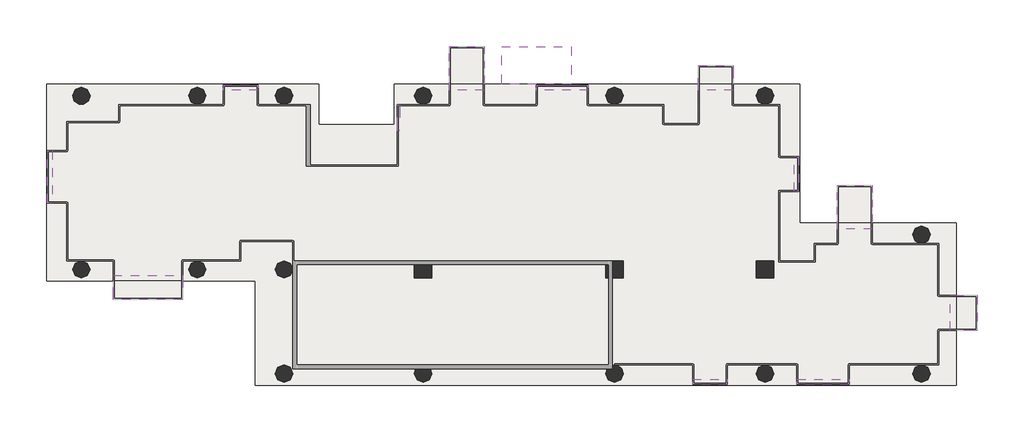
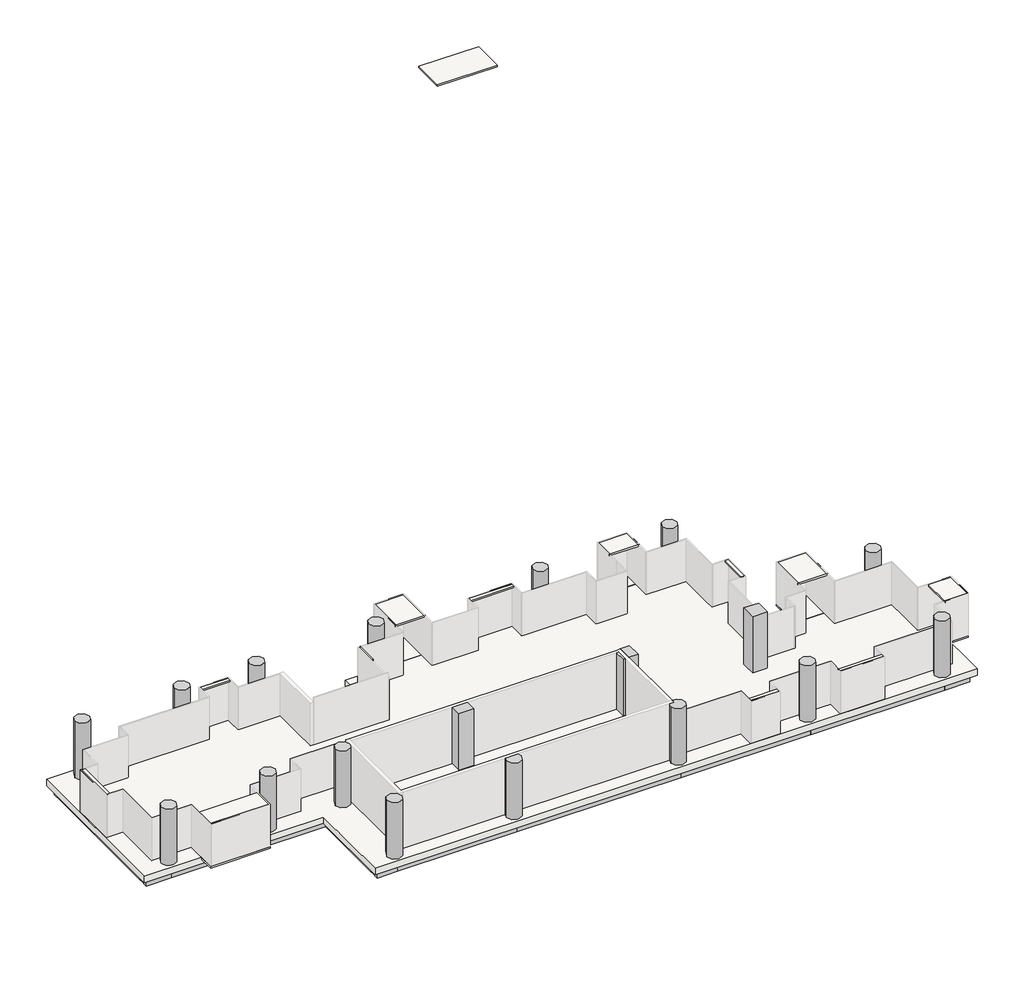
# One storey, part 2 of 2: 40 slabs, 25 beams, 18 columns.
"""IFC4 building model written with IfcOpenShell, lengths in millimetres."""

from ifc_helpers import new_model, si_unit, point, frame, frame_2d, origin, place, context, project, spatial, polyline, circle_curve, trimmed, segment, composite_curve, outline, extrude, transform, mapped, element, save
from ifc_brep_helpers import plane_surface, cylinder_surface, advanced_brep
from components import ajn_arc_ossature_rec_ba_700x600_5242ffbb, ajn_arc_ossature_rec_ba_700x600_213c05e2, ajn_arc_ossature_rec_ba_700x600_4d623bda, ajn_arc_ossature_rec_ba_700x600_c2a8f1af, ajn_arc_ossature_rec_ba_700x600_b2f97811, ajn_arc_ossature_rec_ba_700x600_e688680c, ajn_arc_ossature_rec_ba_700x600_8adee879, ajn_arc_ossature_rec_ba_700x600_6677e51c, ajn_arc_ossature_rec_ba_700x600_60e35d56, ajn_arc_ossature_rec_ba_700x600_9ae0f913, ajn_arc_ossature_rec_ba_700x600_5c14351b, ajn_arc_ossature_rec_ba_700x600_e883967f, ajn_arc_ossature_rec_ba_700x600_0984b03c, ajn_arc_ossature_rec_ba_700x600_78f846f2, ajn_arc_ossature_rec_ba_700x600_e869caa8, ajn_arc_ossature_rec_ba_700x600_0388eb48, ajn_arc_ossature_rec_ba_700x600_e143517c, ajn_arc_ossature_rec_ba_700x600_758f1bfa, ajn_arc_ossature_rec_ba_700x600_64ba80e1, ajn_arc_poteau_circulaire_371a530a

model = new_model("IFC4")

# Units and contexts
model_context = context("Model", 3, world=origin())
ifc_project = project(units=[si_unit("LENGTHUNIT", "METRE", prefix="MILLI")], contexts=[model_context])

# Site, building, storey
site = spatial("IfcSite", under=ifc_project)
building = spatial("IfcBuilding", under=site)
storey = spatial("IfcBuildingStorey", under=building, Name="TW-L 08", Elevation=27999.9999686)

# Beams
placement = place(None, origin())
ajn_arc_ossature_rec_ba_700x600_shape = ajn_arc_ossature_rec_ba_700x600_5242ffbb(model_context)
element("IfcBeam", 1, ObjectType="AJN-ARC-OSSATURE REC-BA : 700x600", at=placement, inside=storey, context=model_context, shape_type="MappedRepresentation", body=[
    mapped(ajn_arc_ossature_rec_ba_700x600_shape, transform((119350.0, 39300.0, 27449.9999686), x_axis=(-1.0, 0.0, 0.0), y_axis=(0.0, -1.0, 0.0), z_axis=(0.0, 0.0, 1.0))),
])
ajn_arc_ossature_rec_ba_700x600_2_shape = ajn_arc_ossature_rec_ba_700x600_213c05e2(model_context)
element("IfcBeam", 2, ObjectType="AJN-ARC-OSSATURE REC-BA : 700x600", at=placement, inside=storey, context=model_context, shape_type="MappedRepresentation", body=[
    mapped(ajn_arc_ossature_rec_ba_700x600_2_shape, transform((100900.0, 34800.0, 27449.9999686), x_axis=(0.0, -1.0, 0.0), y_axis=(1.0, 0.0, 0.0), z_axis=(0.0, 0.0, 1.0))),
])
ajn_arc_ossature_rec_ba_700x600_3_shape = ajn_arc_ossature_rec_ba_700x600_4d623bda(model_context)
element("IfcBeam", 3, ObjectType="AJN-ARC-OSSATURE REC-BA : 700x600", at=placement, inside=storey, context=model_context, shape_type="MappedRepresentation", body=[
    mapped(ajn_arc_ossature_rec_ba_700x600_3_shape, transform((112150.0, 24900.0, 27449.9999686), x_axis=(1.0, 0.0, 0.0), y_axis=(0.0, 1.0, 0.0), z_axis=(0.0, 0.0, 1.0))),
])
ajn_arc_ossature_rec_ba_700x600_4_shape = ajn_arc_ossature_rec_ba_700x600_c2a8f1af(model_context)
element("IfcBeam", 4, ObjectType="AJN-ARC-OSSATURE REC-BA : 700x600", at=placement, inside=storey, context=model_context, shape_type="MappedRepresentation", body=[
    mapped(ajn_arc_ossature_rec_ba_700x600_4_shape, transform((116200.0, 24900.0, 27449.9999686), x_axis=(1.0, 0.0, 0.0), y_axis=(0.0, 1.0, 0.0), z_axis=(0.0, 0.0, 1.0))),
])
ajn_arc_ossature_rec_ba_700x600_5_shape = ajn_arc_ossature_rec_ba_700x600_b2f97811(model_context)
element("IfcBeam", 5, ObjectType="AJN-ARC-OSSATURE REC-BA : 700x600", at=placement, inside=storey, context=model_context, shape_type="MappedRepresentation", body=[
    mapped(ajn_arc_ossature_rec_ba_700x600_5_shape, transform((106900.0, 30300.0, 27449.9999686), x_axis=(1.0, 0.0, 0.0), y_axis=(0.0, 1.0, 0.0), z_axis=(0.0, 0.0, 1.0))),
])
ajn_arc_ossature_rec_ba_700x600_6_shape = ajn_arc_ossature_rec_ba_700x600_e688680c(model_context)
element("IfcBeam", 6, ObjectType="AJN-ARC-OSSATURE REC-BA : 700x600", at=placement, inside=storey, context=model_context, shape_type="MappedRepresentation", body=[
    mapped(ajn_arc_ossature_rec_ba_700x600_6_shape, transform((111700.0, 27600.0, 27449.9999686), x_axis=(0.0, -1.0, 0.0), y_axis=(1.0, 0.0, 0.0), z_axis=(0.0, 0.0, 1.0))),
])
ajn_arc_ossature_rec_ba_700x600_7_shape = ajn_arc_ossature_rec_ba_700x600_8adee879(model_context)
element("IfcBeam", 7, ObjectType="AJN-ARC-OSSATURE REC-BA : 700x600", at=placement, inside=storey, context=model_context, shape_type="MappedRepresentation", body=[
    mapped(ajn_arc_ossature_rec_ba_700x600_7_shape, transform((124750.0, 24900.0, 27449.9999686), x_axis=(1.0, 0.0, 0.0), y_axis=(0.0, 1.0, 0.0), z_axis=(0.0, 0.0, 1.0))),
])
element("IfcBeam", 8, ObjectType="AJN-ARC-OSSATURE REC-BA : 700x600", at=placement, inside=storey, context=model_context, shape_type="MappedRepresentation", body=[
    mapped(ajn_arc_ossature_rec_ba_700x600_7_shape, transform((124750.0, 39300.0, 27449.9999686), x_axis=(-1.0, 0.0, 0.0), y_axis=(0.0, -1.0, 0.0), z_axis=(0.0, 0.0, 1.0))),
])
ajn_arc_ossature_rec_ba_700x600_8_shape = ajn_arc_ossature_rec_ba_700x600_6677e51c(model_context)
element("IfcBeam", 9, ObjectType="AJN-ARC-OSSATURE REC-BA : 700x600", at=placement, inside=storey, context=model_context, shape_type="MappedRepresentation", body=[
    mapped(ajn_arc_ossature_rec_ba_700x600_8_shape, transform((133600.0, 24900.0, 27449.9999686), x_axis=(1.0, 0.0, 0.0), y_axis=(0.0, 1.0, 0.0), z_axis=(0.0, 0.0, 1.0))),
])
ajn_arc_ossature_rec_ba_700x600_9_shape = ajn_arc_ossature_rec_ba_700x600_60e35d56(model_context)
element("IfcBeam", 10, ObjectType="AJN-ARC-OSSATURE REC-BA : 700x600", at=placement, inside=storey, context=model_context, shape_type="MappedRepresentation", body=[
    mapped(ajn_arc_ossature_rec_ba_700x600_9_shape, transform((141550.0, 24900.0, 27449.9999686), x_axis=(1.0, 0.0, 0.0), y_axis=(0.0, 1.0, 0.0), z_axis=(0.0, 0.0, 1.0))),
])
ajn_arc_ossature_rec_ba_700x600_10_shape = ajn_arc_ossature_rec_ba_700x600_9ae0f913(model_context)
element("IfcBeam", 11, ObjectType="AJN-ARC-OSSATURE REC-BA : 700x600", at=placement, inside=storey, context=model_context, shape_type="MappedRepresentation", body=[
    mapped(ajn_arc_ossature_rec_ba_700x600_10_shape, transform((146200.0, 24900.0, 27449.9999686), x_axis=(1.0, 0.0, 0.0), y_axis=(0.0, 1.0, 0.0), z_axis=(0.0, 0.0, 1.0))),
])
element("IfcBeam", 12, ObjectType="AJN-ARC-OSSATURE REC-BA : 700x600", at=placement, inside=storey, context=model_context, shape_type="MappedRepresentation", body=[
    mapped(ajn_arc_ossature_rec_ba_700x600_10_shape, transform((101500.0, 39300.0, 27449.9999686), x_axis=(-1.0, 0.0, 0.0), y_axis=(0.0, -1.0, 0.0), z_axis=(0.0, 0.0, 1.0))),
])
ajn_arc_ossature_rec_ba_700x600_11_shape = ajn_arc_ossature_rec_ba_700x600_5c14351b(model_context)
element("IfcBeam", 13, ObjectType="AJN-ARC-OSSATURE REC-BA : 700x600", at=placement, inside=storey, context=model_context, shape_type="MappedRepresentation", body=[
    mapped(ajn_arc_ossature_rec_ba_700x600_11_shape, transform((146800.0, 28500.0, 27449.9999686), x_axis=(0.0, 1.0, 0.0), y_axis=(-1.0, 0.0, 0.0), z_axis=(0.0, 0.0, 1.0))),
])
element("IfcBeam", 14, ObjectType="AJN-ARC-OSSATURE REC-BA : 700x600", at=placement, inside=storey, context=model_context, shape_type="MappedRepresentation", body=[
    mapped(ajn_arc_ossature_rec_ba_700x600_11_shape, transform((138700.0, 35700.0, 27449.9999686), x_axis=(0.0, 1.0, 0.0), y_axis=(-1.0, 0.0, 0.0), z_axis=(0.0, 0.0, 1.0))),
])
ajn_arc_ossature_rec_ba_700x600_12_shape = ajn_arc_ossature_rec_ba_700x600_e883967f(model_context)
element("IfcBeam", 15, ObjectType="AJN-ARC-OSSATURE REC-BA : 700x600", at=placement, inside=storey, context=model_context, shape_type="MappedRepresentation", body=[
    mapped(ajn_arc_ossature_rec_ba_700x600_12_shape, transform((146200.0, 32100.0, 27449.9999686), x_axis=(-1.0, 0.0, 0.0), y_axis=(0.0, -1.0, 0.0), z_axis=(0.0, 0.0, 1.0))),
])
element("IfcBeam", 16, ObjectType="AJN-ARC-OSSATURE REC-BA : 700x600", at=placement, inside=storey, context=model_context, shape_type="MappedRepresentation", body=[
    mapped(ajn_arc_ossature_rec_ba_700x600_12_shape, transform((138100.0, 39300.0, 27449.9999686), x_axis=(-1.0, 0.0, 0.0), y_axis=(0.0, -1.0, 0.0), z_axis=(0.0, 0.0, 1.0))),
])
element("IfcBeam", 17, ObjectType="AJN-ARC-OSSATURE REC-BA : 700x600", at=placement, inside=storey, context=model_context, shape_type="MappedRepresentation", body=[
    mapped(ajn_arc_ossature_rec_ba_700x600_12_shape, transform((113200.0, 39300.0, 27449.9999686), x_axis=(-1.0, 0.0, 0.0), y_axis=(0.0, -1.0, 0.0), z_axis=(0.0, 0.0, 1.0))),
])
element("IfcBeam", 18, ObjectType="AJN-ARC-OSSATURE REC-BA : 700x600", at=placement, inside=storey, context=model_context, shape_type="MappedRepresentation", body=[
    mapped(ajn_arc_ossature_rec_ba_700x600_12_shape, transform((101500.0, 30300.0, 27449.9999686), x_axis=(1.0, 0.0, 0.0), y_axis=(0.0, 1.0, 0.0), z_axis=(0.0, 0.0, 1.0))),
])
ajn_arc_ossature_rec_ba_700x600_13_shape = ajn_arc_ossature_rec_ba_700x600_0984b03c(model_context)
element("IfcBeam", 19, ObjectType="AJN-ARC-OSSATURE REC-BA : 700x600", at=placement, inside=storey, context=model_context, shape_type="MappedRepresentation", body=[
    mapped(ajn_arc_ossature_rec_ba_700x600_13_shape, transform((142150.0, 32100.0, 27449.9999686), x_axis=(-1.0, 0.0, 0.0), y_axis=(0.0, -1.0, 0.0), z_axis=(0.0, 0.0, 1.0))),
])
ajn_arc_ossature_rec_ba_700x600_14_shape = ajn_arc_ossature_rec_ba_700x600_78f846f2(model_context)
element("IfcBeam", 20, ObjectType="AJN-ARC-OSSATURE REC-BA : 700x600", at=placement, inside=storey, context=model_context, shape_type="MappedRepresentation", body=[
    mapped(ajn_arc_ossature_rec_ba_700x600_14_shape, transform((133600.0, 39300.0, 27449.9999686), x_axis=(-1.0, 0.0, 0.0), y_axis=(0.0, -1.0, 0.0), z_axis=(0.0, 0.0, 1.0))),
])
ajn_arc_ossature_rec_ba_700x600_15_shape = ajn_arc_ossature_rec_ba_700x600_e869caa8(model_context)
element("IfcBeam", 21, ObjectType="AJN-ARC-OSSATURE REC-BA : 700x600", at=placement, inside=storey, context=model_context, shape_type="MappedRepresentation", body=[
    mapped(ajn_arc_ossature_rec_ba_700x600_15_shape, transform((118900.0, 38250.0, 27449.9999686), x_axis=(0.0, -1.0, 0.0), y_axis=(1.0, 0.0, 0.0), z_axis=(0.0, 0.0, 1.0))),
])
ajn_arc_ossature_rec_ba_700x600_16_shape = ajn_arc_ossature_rec_ba_700x600_0388eb48(model_context)
element("IfcBeam", 22, ObjectType="AJN-ARC-OSSATURE REC-BA : 700x600", at=placement, inside=storey, context=model_context, shape_type="MappedRepresentation", body=[
    mapped(ajn_arc_ossature_rec_ba_700x600_16_shape, transform((110350.0, 39300.0, 27449.9999686), x_axis=(-1.0, 0.0, 0.0), y_axis=(0.0, -1.0, 0.0), z_axis=(0.0, 0.0, 1.0))),
])
ajn_arc_ossature_rec_ba_700x600_17_shape = ajn_arc_ossature_rec_ba_700x600_e143517c(model_context)
element("IfcBeam", 23, ObjectType="AJN-ARC-OSSATURE REC-BA : 700x600", at=placement, inside=storey, context=model_context, shape_type="MappedRepresentation", body=[
    mapped(ajn_arc_ossature_rec_ba_700x600_17_shape, transform((105100.0, 39300.0, 27449.9999686), x_axis=(-1.0, 0.0, 0.0), y_axis=(0.0, -1.0, 0.0), z_axis=(0.0, 0.0, 1.0))),
])
ajn_arc_ossature_rec_ba_700x600_18_shape = ajn_arc_ossature_rec_ba_700x600_758f1bfa(model_context)
element("IfcBeam", 24, ObjectType="AJN-ARC-OSSATURE REC-BA : 700x600", at=placement, inside=storey, context=model_context, shape_type="MappedRepresentation", body=[
    mapped(ajn_arc_ossature_rec_ba_700x600_18_shape, transform((116350.0, 37200.0, 27449.9999686), x_axis=(-1.0, 0.0, 0.0), y_axis=(0.0, -1.0, 0.0), z_axis=(0.0, 0.0, 1.0))),
])
ajn_arc_ossature_rec_ba_700x600_19_shape = ajn_arc_ossature_rec_ba_700x600_64ba80e1(model_context)
element("IfcBeam", 25, ObjectType="AJN-ARC-OSSATURE REC-BA : 700x600", at=placement, inside=storey, context=model_context, shape_type="MappedRepresentation", body=[
    mapped(ajn_arc_ossature_rec_ba_700x600_19_shape, transform((113800.0, 38250.0, 27449.9999686), x_axis=(0.0, 1.0, 0.0), y_axis=(-1.0, 0.0, 0.0), z_axis=(0.0, 0.0, 1.0))),
])

# Columns
element("IfcColumn", 26, ObjectType="AJN-ARC-POTEAU CIRCULAIRE : ø90", at=placement, inside=storey, context=model_context, shape_type="SweptSolid", body=[
    extrude(outline(composite_curve([segment(trimmed(circle_curve(frame_2d((102100.0, 30300.0)), 450.0), [point((101650.0, 30300.0))], [point((102550.0, 30300.0))], False, "CARTESIAN"), True, "CONTINUOUS"), segment(trimmed(circle_curve(frame_2d((102100.0, 30300.0)), 450.0), [point((102550.0, 30300.0))], [point((101650.0, 30300.0))], False, "CARTESIAN"), True, "CONTINUOUS")], self_intersect=False)), frame((0.0, 0.0, 27999.9999686), z_axis=(0.0, 0.0, 1.0), x_axis=(1.0, 0.0, 0.0)), (0.0, 0.0, 1.0), 3600.0),
])
element("IfcColumn", 27, ObjectType="AJN-ARC-POTEAU CIRCULAIRE : ø90", at=placement, inside=storey, context=model_context, shape_type="SweptSolid", body=[
    extrude(outline(composite_curve([segment(trimmed(circle_curve(frame_2d((108100.0, 30300.0)), 450.0), [point((107650.0, 30300.0))], [point((108550.0, 30300.0))], False, "CARTESIAN"), True, "CONTINUOUS"), segment(trimmed(circle_curve(frame_2d((108100.0, 30300.0)), 450.0), [point((108550.0, 30300.0))], [point((107650.0, 30300.0))], False, "CARTESIAN"), True, "CONTINUOUS")], self_intersect=False)), frame((0.0, 0.0, 27999.9999686), z_axis=(0.0, 0.0, 1.0), x_axis=(1.0, 0.0, 0.0)), (0.0, 0.0, 1.0), 3600.0),
])
element("IfcColumn", 28, ObjectType="AJN-ARC-POTEAU CIRCULAIRE : ø90", at=placement, inside=storey, context=model_context, shape_type="SweptSolid", body=[
    extrude(outline(composite_curve([segment(trimmed(circle_curve(frame_2d((108100.0, 39300.0)), 450.0), [point((107650.0, 39300.0))], [point((108550.0, 39300.0))], False, "CARTESIAN"), True, "CONTINUOUS"), segment(trimmed(circle_curve(frame_2d((108100.0, 39300.0)), 450.0), [point((108550.0, 39300.0))], [point((107650.0, 39300.0))], False, "CARTESIAN"), True, "CONTINUOUS")], self_intersect=False)), frame((0.0, 0.0, 27999.9999686), z_axis=(0.0, 0.0, 1.0), x_axis=(1.0, 0.0, 0.0)), (0.0, 0.0, 1.0), 3600.0),
])
element("IfcColumn", 29, ObjectType="AJN-ARC-POTEAU CIRCULAIRE : ø90", at=placement, inside=storey, context=model_context, shape_type="SweptSolid", body=[
    extrude(outline(composite_curve([segment(trimmed(circle_curve(frame_2d((112600.0, 39300.0)), 450.0), [point((112150.0, 39300.0))], [point((113050.0, 39300.0))], False, "CARTESIAN"), True, "CONTINUOUS"), segment(trimmed(circle_curve(frame_2d((112600.0, 39300.0)), 450.0), [point((113050.0, 39300.0))], [point((112150.0, 39300.0))], False, "CARTESIAN"), True, "CONTINUOUS")], self_intersect=False)), frame((0.0, 0.0, 27999.9999686), z_axis=(0.0, 0.0, 1.0), x_axis=(1.0, 0.0, 0.0)), (0.0, 0.0, 1.0), 3600.0),
])
element("IfcColumn", 30, ObjectType="AJN-ARC-POTEAU CIRCULAIRE : ø90", at=placement, inside=storey, context=model_context, shape_type="SweptSolid", body=[
    extrude(outline(composite_curve([segment(trimmed(circle_curve(frame_2d((112600.0, 30300.0)), 450.0), [point((112150.0, 30300.0))], [point((113050.0, 30300.0))], False, "CARTESIAN"), True, "CONTINUOUS"), segment(trimmed(circle_curve(frame_2d((112600.0, 30300.0)), 450.0), [point((113050.0, 30300.0))], [point((112150.0, 30300.0))], False, "CARTESIAN"), True, "CONTINUOUS")], self_intersect=False)), frame((0.0, 0.0, 27999.9999686), z_axis=(0.0, 0.0, 1.0), x_axis=(1.0, 0.0, 0.0)), (0.0, 0.0, 1.0), 3600.0),
])
element("IfcColumn", 31, ObjectType="AJN-ARC-POTEAU CIRCULAIRE : ø90", at=placement, inside=storey, context=model_context, shape_type="SweptSolid", body=[
    extrude(outline(composite_curve([segment(trimmed(circle_curve(frame_2d((112600.0, 24900.0)), 450.0), [point((112150.0, 24900.0))], [point((113050.0, 24900.0))], False, "CARTESIAN"), True, "CONTINUOUS"), segment(trimmed(circle_curve(frame_2d((112600.0, 24900.0)), 450.0), [point((113050.0, 24900.0))], [point((112150.0, 24900.0))], False, "CARTESIAN"), True, "CONTINUOUS")], self_intersect=False)), frame((0.0, 0.0, 27999.9999686), z_axis=(0.0, 0.0, 1.0), x_axis=(1.0, 0.0, 0.0)), (0.0, 0.0, 1.0), 3600.0),
])
element("IfcColumn", 32, ObjectType="AJN-ARC-POTEAU CIRCULAIRE : ø90", at=placement, inside=storey, context=model_context, shape_type="SweptSolid", body=[
    extrude(outline(composite_curve([segment(trimmed(circle_curve(frame_2d((119800.0, 24900.0)), 450.0), [point((120250.0, 24900.0))], [point((119350.0, 24900.0))], False, "CARTESIAN"), True, "CONTINUOUS"), segment(trimmed(circle_curve(frame_2d((119800.0, 24900.0)), 450.0), [point((119350.0, 24900.0))], [point((119425.8342613, 25150.0))], False, "CARTESIAN"), True, "CONTINUOUS"), segment(polyline([(119425.8342613, 25150.0), (120174.1657387, 25150.0)]), True, "CONTINUOUS"), segment(trimmed(circle_curve(frame_2d((119800.0, 24900.0)), 450.0), [point((120174.1657387, 25150.0))], [point((120250.0, 24900.0))], False, "CARTESIAN"), True, "CONTINUOUS")], self_intersect=False)), frame((0.0, 0.0, 27999.9999686), z_axis=(0.0, 0.0, 1.0), x_axis=(1.0, 0.0, 0.0)), (0.0, 0.0, 1.0), 3600.0),
])
element("IfcColumn", 33, ObjectType="AJN-ARC-POTEAU CIRCULAIRE : ø90", at=placement, inside=storey, context=model_context, shape_type="SweptSolid", body=[
    extrude(outline(composite_curve([segment(trimmed(circle_curve(frame_2d((119800.0, 39300.0)), 450.0), [point((119350.0, 39300.0))], [point((120250.0, 39300.0))], False, "CARTESIAN"), True, "CONTINUOUS"), segment(trimmed(circle_curve(frame_2d((119800.0, 39300.0)), 450.0), [point((120250.0, 39300.0))], [point((119350.0, 39300.0))], False, "CARTESIAN"), True, "CONTINUOUS")], self_intersect=False)), frame((0.0, 0.0, 27999.9999686), z_axis=(0.0, 0.0, 1.0), x_axis=(1.0, 0.0, 0.0)), (0.0, 0.0, 1.0), 3600.0),
])
element("IfcColumn", 34, ObjectType="AJN-ARC-POTEAU CIRCULAIRE : ø90", at=placement, inside=storey, context=model_context, shape_type="SweptSolid", body=[
    extrude(outline(composite_curve([segment(trimmed(circle_curve(frame_2d((129700.0, 39300.0)), 450.0), [point((129250.0, 39300.0))], [point((130150.0, 39300.0))], False, "CARTESIAN"), True, "CONTINUOUS"), segment(trimmed(circle_curve(frame_2d((129700.0, 39300.0)), 450.0), [point((130150.0, 39300.0))], [point((129250.0, 39300.0))], False, "CARTESIAN"), True, "CONTINUOUS")], self_intersect=False)), frame((0.0, 0.0, 27999.9999686), z_axis=(0.0, 0.0, 1.0), x_axis=(1.0, 0.0, 0.0)), (0.0, 0.0, 1.0), 3600.0),
])
element("IfcColumn", 35, ObjectType="AJN-ARC-POTEAU CIRCULAIRE : ø90", at=placement, inside=storey, context=model_context, shape_type="SweptSolid", body=[
    extrude(outline(composite_curve([segment(trimmed(circle_curve(frame_2d((129700.0, 24900.0)), 450.0), [point((130150.0, 24900.0))], [point((129250.0, 24900.0))], False, "CARTESIAN"), True, "CONTINUOUS"), segment(trimmed(circle_curve(frame_2d((129700.0, 24900.0)), 450.0), [point((129250.0, 24900.0))], [point((129325.8342613, 25150.0))], False, "CARTESIAN"), True, "CONTINUOUS"), segment(polyline([(129325.8342613, 25150.0), (129600.0, 25150.0), (129600.0, 25338.7482194)]), True, "CONTINUOUS"), segment(trimmed(circle_curve(frame_2d((129700.0, 24900.0)), 450.0), [point((129600.0, 25338.7482194))], [point((130150.0, 24900.0))], False, "CARTESIAN"), True, "CONTINUOUS")], self_intersect=False)), frame((0.0, 0.0, 27999.9999686), z_axis=(0.0, 0.0, 1.0), x_axis=(1.0, 0.0, 0.0)), (0.0, 0.0, 1.0), 3600.0),
])
element("IfcColumn", 36, ObjectType="AJN-ARC-POTEAU CIRCULAIRE : ø90", at=placement, inside=storey, context=model_context, shape_type="SweptSolid", body=[
    extrude(outline(composite_curve([segment(trimmed(circle_curve(frame_2d((137500.0, 39300.0)), 450.0), [point((137050.0, 39300.0))], [point((137950.0, 39300.0))], False, "CARTESIAN"), True, "CONTINUOUS"), segment(trimmed(circle_curve(frame_2d((137500.0, 39300.0)), 450.0), [point((137950.0, 39300.0))], [point((137050.0, 39300.0))], False, "CARTESIAN"), True, "CONTINUOUS")], self_intersect=False)), frame((0.0, 0.0, 27999.9999686), z_axis=(0.0, 0.0, 1.0), x_axis=(1.0, 0.0, 0.0)), (0.0, 0.0, 1.0), 3600.0),
])
element("IfcColumn", 37, ObjectType="AJN-ARC-POTEAU CIRCULAIRE : ø90", at=placement, inside=storey, context=model_context, shape_type="SweptSolid", body=[
    extrude(outline(composite_curve([segment(trimmed(circle_curve(frame_2d((137500.0, 24900.0)), 450.0), [point((137050.0, 24900.0))], [point((137950.0, 24900.0))], False, "CARTESIAN"), True, "CONTINUOUS"), segment(trimmed(circle_curve(frame_2d((137500.0, 24900.0)), 450.0), [point((137950.0, 24900.0))], [point((137050.0, 24900.0))], False, "CARTESIAN"), True, "CONTINUOUS")], self_intersect=False)), frame((0.0, 0.0, 27999.9999686), z_axis=(0.0, 0.0, 1.0), x_axis=(1.0, 0.0, 0.0)), (0.0, 0.0, 1.0), 3600.0),
])
element("IfcColumn", 38, ObjectType="AJN-ARC-POTEAU CIRCULAIRE : ø90", at=placement, inside=storey, context=model_context, shape_type="SweptSolid", body=[
    extrude(outline(composite_curve([segment(trimmed(circle_curve(frame_2d((145600.0, 24900.0)), 450.0), [point((145150.0, 24900.0))], [point((146050.0, 24900.0))], False, "CARTESIAN"), True, "CONTINUOUS"), segment(trimmed(circle_curve(frame_2d((145600.0, 24900.0)), 450.0), [point((146050.0, 24900.0))], [point((145150.0, 24900.0))], False, "CARTESIAN"), True, "CONTINUOUS")], self_intersect=False)), frame((0.0, 0.0, 27999.9999686), z_axis=(0.0, 0.0, 1.0), x_axis=(1.0, 0.0, 0.0)), (0.0, 0.0, 1.0), 3600.0),
])
element("IfcColumn", 39, ObjectType="AJN-ARC-POTEAU CIRCULAIRE : ø90", at=placement, inside=storey, context=model_context, shape_type="AdvancedBrep", body=[
    advanced_brep(
    [(145150.0, 32100.0, 27999.9999686), (146050.0, 32100.0, 27999.9999686), (145638.6089983, 31651.6593424, 27999.9999686), (145561.3910017, 31651.6593424, 27999.9999686), (145150.0, 32100.0, 31599.9999686), (146050.0, 32100.0, 31599.9999686), (145561.3910017, 31651.6593424, 30699.9999686), (145638.6089983, 31651.6593424, 30699.9999686)],
    [
        (0, 1, circle_curve(frame((145600.0, 32100.0, 27999.9999686), z_axis=(0.0, 0.0, -1.0), x_axis=(1.0, 0.0, 0.0)), 450.0)),
        (1, 2, circle_curve(frame((145600.0, 32100.0, 27999.9999686), z_axis=(0.0, 0.0, -1.0), x_axis=(1.0, 0.0, 0.0)), 450.0)),
        (2, 3),
        (3, 0, circle_curve(frame((145600.0, 32100.0, 27999.9999686), z_axis=(0.0, 0.0, -1.0), x_axis=(1.0, 0.0, 0.0)), 450.0)),
        (0, 4),
        (4, 5, circle_curve(frame((145600.0, 32100.0, 31599.9999686), z_axis=(0.0, 0.0, -1.0), x_axis=(1.0, 0.0, 0.0)), 450.0)),
        (5, 1),
        (5, 4, circle_curve(frame((145600.0, 32100.0, 31599.9999686), z_axis=(0.0, 0.0, -1.0), x_axis=(1.0, 0.0, 0.0)), 450.0)),
        (3, 6),
        (6, 7, circle_curve(frame((145600.0, 32100.0, 30699.9999686), z_axis=(0.0, 0.0, 1.0), x_axis=(1.0, 0.0, 0.0)), 450.0)),
        (7, 2),
        (7, 6),
    ],
    [
        plane_surface(frame((146050.0, 32100.0, 27999.9999686), z_axis=(0.0, 0.0, -1.0), x_axis=(0.0, -1.0, 0.0))),
        cylinder_surface(frame((145600.0, 32100.0, 27999.9999686), z_axis=(0.0, 0.0, 1.0), x_axis=(1.0, 0.0, 0.0)), 450.0),
        plane_surface(frame((146050.0, 32100.0, 31599.9999686), z_axis=(0.0, 0.0, 1.0), x_axis=(0.0, 1.0, 0.0))),
        plane_surface(frame((146472.681474, 31651.6593424, 27999.9999686), z_axis=(0.0, -1.0, 0.0), x_axis=(-1.0, 0.0, 0.0))),
        plane_surface(frame((143050.0855834, 31651.6593424, 30699.9999686), z_axis=(0.0, 0.0, -1.0), x_axis=(0.0, -1.0, 0.0))),
    ],
    [
        (0, [[1, 2, 3, 4]]),
        (1, [[-1, 5, 6, 7]]),
        (1, [[-7, 8, -5, -4, 9, 10, 11, -2]]),
        (2, [[-6, -8]]),
        (3, [[12, -9, -3, -11]]),
        (4, [[-12, -10]]),
    ],
),
])
ajn_arc_poteau_circulaire_shape = ajn_arc_poteau_circulaire_371a530a(model_context)
element("IfcColumn", 40, ObjectType="AJN-ARC-POTEAU CIRCULAIRE : ø90", at=placement, inside=storey, context=model_context, shape_type="MappedRepresentation", body=[
    mapped(ajn_arc_poteau_circulaire_shape, transform((102100.0, 39300.0, 0.0), x_axis=(1.0, 0.0, 0.0), y_axis=(0.0, 1.0, 0.0), z_axis=(0.0, 0.0, 1.0))),
])
element("IfcColumn", 41, ObjectType="AJN-ARC-POTEAU RECTANGULAIRE : 900 mm x 900 mm", at=placement, inside=storey, context=model_context, shape_type="SweptSolid", body=[
    extrude(outline(polyline([(137950.0, 30750.0), (137950.0, 29850.0), (137050.0, 29850.0), (137050.0, 30750.0), (137950.0, 30750.0)])), frame((0.0, 0.0, 27999.9999686), z_axis=(0.0, 0.0, 1.0), x_axis=(1.0, 0.0, 0.0)), (0.0, 0.0, 1.0), 3600.0),
])
element("IfcColumn", 42, ObjectType="AJN-ARC-POTEAU RECTANGULAIRE : 900 mm x 900 mm", at=placement, inside=storey, context=model_context, shape_type="SweptSolid", body=[
    extrude(outline(polyline([(129400.0, 29850.0), (129250.0, 29850.0), (129250.0, 30550.0), (129400.0, 30550.0), (129400.0, 29850.0)])), frame((0.0, 0.0, 27999.9999686), z_axis=(0.0, 0.0, 1.0), x_axis=(1.0, 0.0, 0.0)), (0.0, 0.0, 1.0), 3600.0),
    extrude(outline(polyline([(130150.0, 30750.0), (130150.0, 29850.0), (129600.0, 29850.0), (129600.0, 30750.0), (130150.0, 30750.0)])), frame((0.0, 0.0, 27999.9999686), z_axis=(0.0, 0.0, 1.0), x_axis=(1.0, 0.0, 0.0)), (0.0, 0.0, 1.0), 3600.0),
])
element("IfcColumn", 43, ObjectType="AJN-ARC-POTEAU RECTANGULAIRE : 900 mm x 900 mm", at=placement, inside=storey, context=model_context, shape_type="SweptSolid", body=[
    extrude(outline(polyline([(120250.0, 29850.0), (119350.0, 29850.0), (119350.0, 30550.0), (120250.0, 30550.0), (120250.0, 29850.0)])), frame((0.0, 0.0, 27999.9999686), z_axis=(0.0, 0.0, 1.0), x_axis=(1.0, 0.0, 0.0)), (0.0, 0.0, 1.0), 3600.0),
])

# Slabs
element("IfcSlab", 44, ObjectType="AJN-ARC-SLAB-10cm", at=placement, inside=storey, context=model_context, shape_type="SweptSolid", body=[
    extrude(outline(polyline([(148497.681474, 27148.986399), (147400.0, 27148.986399), (147400.0, 28948.986399), (148497.681474, 28948.986399), (148497.681474, 27148.986399)])), frame((0.0, 0.0, 27899.9999686), z_axis=(0.0, 0.0, 1.0), x_axis=(1.0, 0.0, 0.0)), (0.0, 0.0, 1.0), 100.0),
])
element("IfcSlab", 45, ObjectType="AJN-ARC-SLAB-10cm", at=placement, inside=storey, context=model_context, shape_type="SweptSolid", body=[
    extrude(outline(polyline([(143050.0855834, 32700.0), (141250.0855834, 32700.0), (141250.0855834, 34651.6593424), (143050.0855834, 34651.6593424), (143050.0855834, 32700.0)])), frame((0.0, 0.0, 27899.9999686), z_axis=(0.0, 0.0, 1.0), x_axis=(1.0, 0.0, 0.0)), (0.0, 0.0, 1.0), 100.0),
])
element("IfcSlab", 46, ObjectType="AJN-ARC-SLAB-10cm", at=placement, inside=storey, context=model_context, shape_type="SweptSolid", body=[
    extrude(outline(polyline([(122950.0, 39900.0), (121150.0, 39900.0), (121150.0, 41850.0), (122950.0, 41850.0), (122950.0, 39900.0)])), frame((0.0, 0.0, 27899.9999686), z_axis=(0.0, 0.0, 1.0), x_axis=(1.0, 0.0, 0.0)), (0.0, 0.0, 1.0), 100.0),
])
element("IfcSlab", 47, ObjectType="AJN-ARC-SLAB-10cm", at=placement, inside=storey, context=model_context, shape_type="SweptSolid", body=[
    extrude(outline(polyline([(135850.0, 39900.0), (134050.0, 39900.0), (134050.0, 40850.0), (135850.0, 40850.0), (135850.0, 39900.0)])), frame((0.0, 0.0, 27899.9999686), z_axis=(0.0, 0.0, 1.0), x_axis=(1.0, 0.0, 0.0)), (0.0, 0.0, 1.0), 100.0),
])
element("IfcSlab", 48, ObjectType="AJN-ARC-SLAB-10cm", at=placement, inside=storey, context=model_context, shape_type="SweptSolid", body=[
    extrude(outline(polyline([(107347.1743518, 28750.0), (103747.1743518, 28750.0), (103747.1743518, 29700.0), (107347.1743518, 29700.0), (107347.1743518, 28750.0)])), frame((0.0, 0.0, 27899.9999686), z_axis=(0.0, 0.0, 1.0), x_axis=(1.0, 0.0, 0.0)), (0.0, 0.0, 1.0), 100.0),
])
element("IfcSlab", 49, ObjectType="AJN-ARC-SLAB-10cm", at=placement, inside=storey, context=model_context, shape_type="SweptSolid", body=[
    extrude(outline(polyline([(107347.1743518, 28750.0), (103747.1743518, 28750.0), (103747.1743518, 29700.0), (107347.1743518, 29700.0), (107347.1743518, 28750.0)])), frame((0.0, 0.0, 27899.9999686), z_axis=(0.0, 0.0, 1.0), x_axis=(1.0, 0.0, 0.0)), (0.0, 0.0, 1.0), 100.0),
])
element("IfcSlab", 50, ObjectType="AJN-ARC-SLAB-10cm", at=placement, inside=storey, context=model_context, shape_type="SweptSolid", body=[
    extrude(outline(polyline([(107347.1743518, 28750.0), (103747.1743518, 28750.0), (103747.1743518, 29700.0), (107347.1743518, 29700.0), (107347.1743518, 28750.0)])), frame((0.0, 0.0, 27899.9999686), z_axis=(0.0, 0.0, 1.0), x_axis=(1.0, 0.0, 0.0)), (0.0, 0.0, 1.0), 100.0),
])
element("IfcSlab", 51, ObjectType="AJN-ARC-SLAB-10cm", at=placement, inside=storey, context=model_context, shape_type="SweptSolid", body=[
    extrude(outline(polyline([(107347.1743518, 28750.0), (103747.1743518, 28750.0), (103747.1743518, 29700.0), (107347.1743518, 29700.0), (107347.1743518, 28750.0)])), frame((0.0, 0.0, 27899.9999686), z_axis=(0.0, 0.0, 1.0), x_axis=(1.0, 0.0, 0.0)), (0.0, 0.0, 1.0), 100.0),
])
element("IfcSlab", 52, ObjectType="AJN-ARC-SLAB-10cm", at=placement, inside=storey, context=model_context, shape_type="SweptSolid", body=[
    extrude(outline(polyline([(107347.1743518, 28750.0), (103747.1743518, 28750.0), (103747.1743518, 29700.0), (107347.1743518, 29700.0), (107347.1743518, 28750.0)])), frame((0.0, 0.0, 27899.9999686), z_axis=(0.0, 0.0, 1.0), x_axis=(1.0, 0.0, 0.0)), (0.0, 0.0, 1.0), 100.0),
])
element("IfcSlab", 53, ObjectType="AJN-ARC-SLAB-10cm", at=placement, inside=storey, context=model_context, shape_type="SweptSolid", body=[
    extrude(outline(polyline([(107347.1743518, 28750.0), (103747.1743518, 28750.0), (103747.1743518, 29700.0), (107347.1743518, 29700.0), (107347.1743518, 28750.0)])), frame((0.0, 0.0, 27899.9999686), z_axis=(0.0, 0.0, 1.0), x_axis=(1.0, 0.0, 0.0)), (0.0, 0.0, 1.0), 100.0),
])
element("IfcSlab", 54, ObjectType="AJN-ARC-SLAB-10cm", at=placement, inside=storey, context=model_context, shape_type="SweptSolid", body=[
    extrude(outline(polyline([(107347.1743518, 28750.0), (103747.1743518, 28750.0), (103747.1743518, 29700.0), (107347.1743518, 29700.0), (107347.1743518, 28750.0)])), frame((0.0, 0.0, 27899.9999686), z_axis=(0.0, 0.0, 1.0), x_axis=(1.0, 0.0, 0.0)), (0.0, 0.0, 1.0), 100.0),
])
element("IfcSlab", 55, ObjectType="AJN-ARC-SLAB-10cm", at=placement, inside=storey, context=model_context, shape_type="SweptSolid", body=[
    extrude(outline(polyline([(107347.1743518, 28750.0), (103747.1743518, 28750.0), (103747.1743518, 29700.0), (107347.1743518, 29700.0), (107347.1743518, 28750.0)])), frame((0.0, 0.0, 27899.9999686), z_axis=(0.0, 0.0, 1.0), x_axis=(1.0, 0.0, 0.0)), (0.0, 0.0, 1.0), 100.0),
])
element("IfcSlab", 56, ObjectType="AJN-ARC-SLAB-10cm", at=placement, inside=storey, context=model_context, shape_type="SweptSolid", body=[
    extrude(outline(polyline([(107347.1743518, 28750.0), (103747.1743518, 28750.0), (103747.1743518, 29700.0), (107347.1743518, 29700.0), (107347.1743518, 28750.0)])), frame((0.0, 0.0, 27899.9999686), z_axis=(0.0, 0.0, 1.0), x_axis=(1.0, 0.0, 0.0)), (0.0, 0.0, 1.0), 100.0),
])
element("IfcSlab", 57, ObjectType="AJN-ARC-SLAB-10cm", at=placement, inside=storey, context=model_context, shape_type="SweptSolid", body=[
    extrude(outline(polyline([(107347.1743518, 28750.0), (103747.1743518, 28750.0), (103747.1743518, 29700.0), (107347.1743518, 29700.0), (107347.1743518, 28750.0)])), frame((0.0, 0.0, 27899.9999686), z_axis=(0.0, 0.0, 1.0), x_axis=(1.0, 0.0, 0.0)), (0.0, 0.0, 1.0), 100.0),
])
element("IfcSlab", 58, ObjectType="AJN-ARC-SLAB-10cm", at=placement, inside=storey, context=model_context, shape_type="SweptSolid", body=[
    extrude(outline(polyline([(107347.1743518, 28750.0), (103747.1743518, 28750.0), (103747.1743518, 29700.0), (107347.1743518, 29700.0), (107347.1743518, 28750.0)])), frame((0.0, 0.0, 27899.9999686), z_axis=(0.0, 0.0, 1.0), x_axis=(1.0, 0.0, 0.0)), (0.0, 0.0, 1.0), 100.0),
])
element("IfcSlab", 59, ObjectType="AJN-ARC-SLAB-10cm", at=placement, inside=storey, context=model_context, shape_type="SweptSolid", body=[
    extrude(outline(polyline([(107347.1743518, 28750.0), (103747.1743518, 28750.0), (103747.1743518, 29700.0), (107347.1743518, 29700.0), (107347.1743518, 28750.0)])), frame((0.0, 0.0, 27899.9999686), z_axis=(0.0, 0.0, 1.0), x_axis=(1.0, 0.0, 0.0)), (0.0, 0.0, 1.0), 100.0),
])
element("IfcSlab", 60, ObjectType="AJN-ARC-SLAB-10cm", at=placement, inside=storey, context=model_context, shape_type="SweptSolid", body=[
    extrude(outline(polyline([(107347.1743518, 28750.0), (103747.1743518, 28750.0), (103747.1743518, 29700.0), (107347.1743518, 29700.0), (107347.1743518, 28750.0)])), frame((0.0, 0.0, 27899.9999686), z_axis=(0.0, 0.0, 1.0), x_axis=(1.0, 0.0, 0.0)), (0.0, 0.0, 1.0), 100.0),
])
element("IfcSlab", 61, ObjectType="AJN-ARC-SLAB-10cm", at=placement, inside=storey, context=model_context, shape_type="SweptSolid", body=[
    extrude(outline(polyline([(107347.1743518, 28750.0), (103747.1743518, 28750.0), (103747.1743518, 29700.0), (107347.1743518, 29700.0), (107347.1743518, 28750.0)])), frame((0.0, 0.0, 27899.9999686), z_axis=(0.0, 0.0, 1.0), x_axis=(1.0, 0.0, 0.0)), (0.0, 0.0, 1.0), 100.0),
])
element("IfcSlab", 62, ObjectType="AJN-ARC-SLAB-10cm", at=placement, inside=storey, context=model_context, shape_type="SweptSolid", body=[
    extrude(outline(polyline([(107347.1743518, 28750.0), (103747.1743518, 28750.0), (103747.1743518, 29700.0), (107347.1743518, 29700.0), (107347.1743518, 28750.0)])), frame((0.0, 0.0, 27899.9999686), z_axis=(0.0, 0.0, 1.0), x_axis=(1.0, 0.0, 0.0)), (0.0, 0.0, 1.0), 100.0),
])
element("IfcSlab", 63, ObjectType="AJN-ARC-SLAB-10cm", at=placement, inside=storey, context=model_context, shape_type="SweptSolid", body=[
    extrude(outline(polyline([(100600.0, 33750.0), (100347.1743518, 33750.0), (100347.1743518, 36450.0), (100600.0, 36450.0), (100600.0, 33750.0)])), frame((0.0, 0.0, 30599.9999686), z_axis=(0.0, 0.0, 1.0), x_axis=(1.0, 0.0, 0.0)), (0.0, 0.0, 1.0), 100.0),
])
element("IfcSlab", 64, ObjectType="AJN-ARC-SLAB-10cm", at=placement, inside=storey, context=model_context, shape_type="SweptSolid", body=[
    extrude(outline(polyline([(143050.0855834, 32400.0), (141250.0855834, 32400.0), (141250.0855834, 34651.6593424), (143050.0855834, 34651.6593424), (143050.0855834, 32400.0)])), frame((0.0, 0.0, 30599.9999686), z_axis=(0.0, 0.0, 1.0), x_axis=(1.0, 0.0, 0.0)), (0.0, 0.0, 1.0), 100.0),
])
element("IfcSlab", 65, ObjectType="AJN-ARC-SLAB-10cm", at=placement, inside=storey, context=model_context, shape_type="SweptSolid", body=[
    extrude(outline(polyline([(111250.0, 39600.0), (109450.0, 39600.0), (109450.0, 39850.0), (111250.0, 39850.0), (111250.0, 39600.0)])), frame((0.0, 0.0, 30599.9999686), z_axis=(0.0, 0.0, 1.0), x_axis=(1.0, 0.0, 0.0)), (0.0, 0.0, 1.0), 100.0),
])
element("IfcSlab", 66, ObjectType="AJN-ARC-SLAB-10cm", at=placement, inside=storey, context=model_context, shape_type="SweptSolid", body=[
    extrude(outline(polyline([(128350.0, 39600.0), (125650.0, 39600.0), (125650.0, 39850.0), (128350.0, 39850.0), (128350.0, 39600.0)])), frame((0.0, 0.0, 30599.9999686), z_axis=(0.0, 0.0, 1.0), x_axis=(1.0, 0.0, 0.0)), (0.0, 0.0, 1.0), 100.0),
])
element("IfcSlab", 67, ObjectType="AJN-ARC-SLAB-10cm", at=placement, inside=storey, context=model_context, shape_type="SweptSolid", body=[
    extrude(outline(polyline([(135550.2925687, 24350.0), (133750.2925687, 24350.0), (133750.2925687, 24600.0), (135550.2925687, 24600.0), (135550.2925687, 24350.0)])), frame((0.0, 0.0, 30599.9999686), z_axis=(0.0, 0.0, 1.0), x_axis=(1.0, 0.0, 0.0)), (0.0, 0.0, 1.0), 100.0),
])
element("IfcSlab", 68, ObjectType="AJN-ARC-SLAB-10cm", at=placement, inside=storey, context=model_context, shape_type="SweptSolid", body=[
    extrude(outline(polyline([(118600.0, 37500.0), (118450.0, 37500.0), (118450.0, 38850.0), (118600.0, 38850.0), (118600.0, 37500.0)])), frame((0.0, 0.0, 30599.9999686), z_axis=(0.0, 0.0, 1.0), x_axis=(1.0, 0.0, 0.0)), (0.0, 0.0, 1.0), 100.0),
])
element("IfcSlab", 69, ObjectType="AJN-ARC-SLAB-10cm", at=placement, inside=storey, context=model_context, shape_type="SweptSolid", body=[
    extrude(outline(polyline([(141850.1203267, 24350.0), (139150.1203267, 24350.0), (139150.1203267, 24600.0), (141850.1203267, 24600.0), (141850.1203267, 24350.0)])), frame((0.0, 0.0, 30599.9999686), z_axis=(0.0, 0.0, 1.0), x_axis=(1.0, 0.0, 0.0)), (0.0, 0.0, 1.0), 100.0),
])
element("IfcSlab", 70, ObjectType="AJN-ARC-SLAB-10cm", at=placement, inside=storey, context=model_context, shape_type="SweptSolid", body=[
    extrude(outline(polyline([(135850.0, 39600.0), (134050.0, 39600.0), (134050.0, 40850.0), (135850.0, 40850.0), (135850.0, 39600.0)])), frame((0.0, 0.0, 30599.9999686), z_axis=(0.0, 0.0, 1.0), x_axis=(1.0, 0.0, 0.0)), (0.0, 0.0, 1.0), 100.0),
])
element("IfcSlab", 71, ObjectType="AJN-ARC-SLAB-10cm", at=placement, inside=storey, context=model_context, shape_type="SweptSolid", body=[
    extrude(outline(polyline([(122950.0, 39600.0), (121150.0, 39600.0), (121150.0, 41850.0), (122950.0, 41850.0), (122950.0, 39600.0)])), frame((0.0, 0.0, 30599.9999686), z_axis=(0.0, 0.0, 1.0), x_axis=(1.0, 0.0, 0.0)), (0.0, 0.0, 1.0), 100.0),
])
element("IfcSlab", 72, ObjectType="AJN-ARC-SLAB-10cm", at=placement, inside=storey, context=model_context, shape_type="SweptSolid", body=[
    extrude(outline(polyline([(139250.0, 34350.0), (139000.0, 34350.0), (139000.0, 36150.0), (139250.0, 36150.0), (139250.0, 34350.0)])), frame((0.0, 0.0, 30599.9999686), z_axis=(0.0, 0.0, 1.0), x_axis=(1.0, 0.0, 0.0)), (0.0, 0.0, 1.0), 100.0),
])
element("IfcSlab", 73, ObjectType="AJN-ARC-SLAB-10cm", at=placement, inside=storey, context=model_context, shape_type="SweptSolid", body=[
    extrude(outline(polyline([(107347.1743518, 28750.0), (103747.1743518, 28750.0), (103747.1743518, 30000.0), (107347.1743518, 30000.0), (107347.1743518, 28750.0)])), frame((0.0, 0.0, 30599.9999686), z_axis=(0.0, 0.0, 1.0), x_axis=(1.0, 0.0, 0.0)), (0.0, 0.0, 1.0), 100.0),
])
element("IfcSlab", 74, ObjectType="AJN-ARC-SLAB-10cm", at=placement, inside=storey, context=model_context, shape_type="SweptSolid", body=[
    extrude(outline(polyline([(148497.681474, 27148.986399), (147100.0, 27148.986399), (147100.0, 28948.986399), (148497.681474, 28948.986399), (148497.681474, 27148.986399)])), frame((0.0, 0.0, 30599.9999686), z_axis=(0.0, 0.0, 1.0), x_axis=(1.0, 0.0, 0.0)), (0.0, 0.0, 1.0), 100.0),
])
element("IfcSlab", 75, ObjectType="AJN-ARC-SLAB-10cm", at=placement, inside=storey, context=model_context, shape_type="SweptSolid", body=[
    extrude(outline(polyline([(148497.681474, 27148.986399), (147100.0, 27148.986399), (147100.0, 28948.986399), (148497.681474, 28948.986399), (148497.681474, 27148.986399)])), frame((0.0, 0.0, 30599.9999686), z_axis=(0.0, 0.0, 1.0), x_axis=(1.0, 0.0, 0.0)), (0.0, 0.0, 1.0), 100.0),
])
element("IfcSlab", 76, ObjectType="AJN-ARC-SLAB-10cm", at=placement, inside=storey, context=model_context, shape_type="SweptSolid", body=[
    extrude(outline(polyline([(148497.681474, 27148.986399), (147100.0, 27148.986399), (147100.0, 28948.986399), (148497.681474, 28948.986399), (148497.681474, 27148.986399)])), frame((0.0, 0.0, 30599.9999686), z_axis=(0.0, 0.0, 1.0), x_axis=(1.0, 0.0, 0.0)), (0.0, 0.0, 1.0), 100.0),
])
element("IfcSlab", 77, ObjectType="AJN-ARC-SLAB-10cm", at=placement, inside=storey, context=model_context, shape_type="SweptSolid", body=[
    extrude(outline(polyline([(148497.681474, 27148.986399), (147100.0, 27148.986399), (147100.0, 28948.986399), (148497.681474, 28948.986399), (148497.681474, 27148.986399)])), frame((0.0, 0.0, 30599.9999686), z_axis=(0.0, 0.0, 1.0), x_axis=(1.0, 0.0, 0.0)), (0.0, 0.0, 1.0), 100.0),
])
element("IfcSlab", 78, ObjectType="AJN-ARC-SLAB-10cm", at=placement, inside=storey, context=model_context, shape_type="SweptSolid", body=[
    extrude(outline(polyline([(148497.681474, 27148.986399), (147100.0, 27148.986399), (147100.0, 28948.986399), (148497.681474, 28948.986399), (148497.681474, 27148.986399)])), frame((0.0, 0.0, 30599.9999686), z_axis=(0.0, 0.0, 1.0), x_axis=(1.0, 0.0, 0.0)), (0.0, 0.0, 1.0), 100.0),
])
element("IfcSlab", 79, ObjectType="AJN-ARC-SLAB-10cm", at=placement, inside=storey, context=model_context, shape_type="SweptSolid", body=[
    extrude(outline(polyline([(148497.681474, 27148.986399), (147100.0, 27148.986399), (147100.0, 28948.986399), (148497.681474, 28948.986399), (148497.681474, 27148.986399)])), frame((0.0, 0.0, 30599.9999686), z_axis=(0.0, 0.0, 1.0), x_axis=(1.0, 0.0, 0.0)), (0.0, 0.0, 1.0), 100.0),
])
element("IfcSlab", 80, ObjectType="AJN-ARC-SLAB-10cm", at=placement, inside=storey, context=model_context, shape_type="SweptSolid", body=[
    extrude(outline(polyline([(148497.681474, 27148.986399), (147100.0, 27148.986399), (147100.0, 28948.986399), (148497.681474, 28948.986399), (148497.681474, 27148.986399)])), frame((0.0, 0.0, 30599.9999686), z_axis=(0.0, 0.0, 1.0), x_axis=(1.0, 0.0, 0.0)), (0.0, 0.0, 1.0), 100.0),
])
element("IfcSlab", 81, ObjectType="AJN-ARC-SLAB-10cm", at=placement, inside=storey, context=model_context, shape_type="SweptSolid", body=[
    extrude(outline(polyline([(148497.681474, 27148.986399), (147100.0, 27148.986399), (147100.0, 28948.986399), (148497.681474, 28948.986399), (148497.681474, 27148.986399)])), frame((0.0, 0.0, 30599.9999686), z_axis=(0.0, 0.0, 1.0), x_axis=(1.0, 0.0, 0.0)), (0.0, 0.0, 1.0), 100.0),
])
element("IfcSlab", 82, ObjectType="AJN-ARC-SLAB-10cm", at=placement, inside=storey, context=model_context, shape_type="SweptSolid", body=[
    extrude(outline(polyline([(127463.0639015, 39900.0), (123863.0639015, 39900.0), (123863.0639015, 41850.0), (127463.0639015, 41850.0), (127463.0639015, 39900.0)])), frame((0.0, 0.0, 63900.0), z_axis=(0.0, 0.0, 1.0), x_axis=(1.0, 0.0, 0.0)), (0.0, 0.0, 1.0), 100.0),
])
element("IfcSlab", 83, ObjectType="AJN-ARC-SLAB-40cm", at=placement, inside=storey, context=model_context, shape_type="SweptSolid", body=[
    extrude(outline(polyline([(147400.0, 24300.0), (111100.0, 24300.0), (111100.0, 29700.0), (100300.0, 29700.0), (100300.0, 39900.0), (114400.0, 39900.0), (114400.0, 37800.0), (118300.0, 37800.0), (118300.0, 39900.0), (139300.0, 39900.0), (139300.0, 32700.0), (147400.0, 32700.0), (147400.0, 24300.0)])), frame((0.0, 0.0, 27599.9999686), z_axis=(0.0, 0.0, 1.0), x_axis=(1.0, 0.0, 0.0)), (0.0, 0.0, 1.0), 400.0),
])

save(model, "model.ifc")
